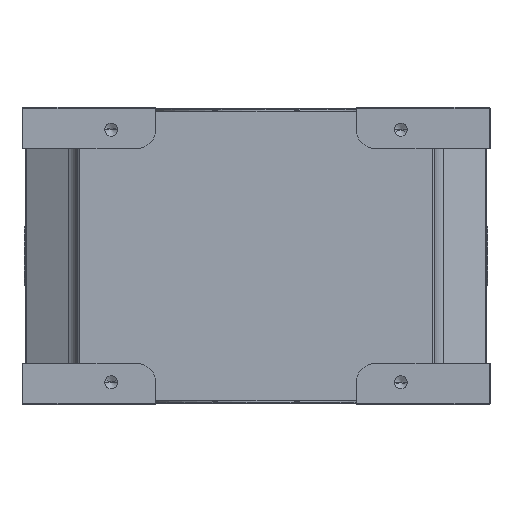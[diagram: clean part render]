
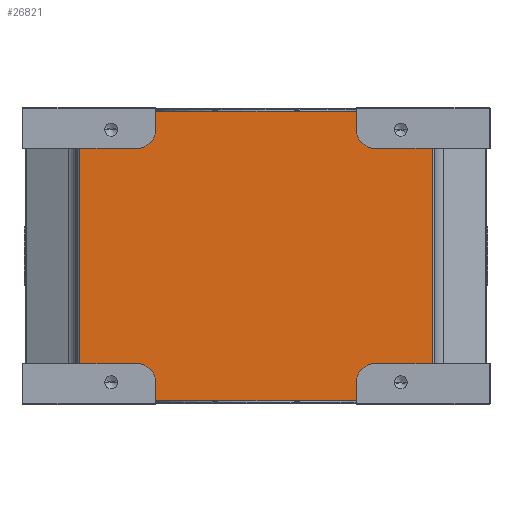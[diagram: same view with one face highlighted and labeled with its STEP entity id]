
A CAD part, left-side view. The second image highlights one B-rep face of the part: STEP entity #26821.
In plain terms, the highlighted planar face has unit normal (-1, 0, 0).
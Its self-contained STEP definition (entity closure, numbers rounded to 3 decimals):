
#3194=DIRECTION('',(0.,-1.,0.));
#3195=VECTOR('',#3194,270.);
#3196=CARTESIAN_POINT('',(-560.,135.,-195.));
#3197=LINE('',#3196,#3195);
#3326=DIRECTION('',(0.,1.,0.));
#3327=VECTOR('',#3326,270.);
#3328=CARTESIAN_POINT('',(-560.,-135.,195.));
#3329=LINE('',#3328,#3327);
#3450=DIRECTION('',(0.,0.,-1.));
#3451=VECTOR('',#3450,25.);
#3452=CARTESIAN_POINT('',(-560.,135.,-170.));
#3453=LINE('',#3452,#3451);
#3454=CARTESIAN_POINT('',(-560.,160.,-170.));
#3455=DIRECTION('',(1.,0.,0.));
#3456=DIRECTION('',(0.,0.,1.));
#3457=AXIS2_PLACEMENT_3D('',#3454,#3455,#3456);
#3459=DIRECTION('',(0.,-1.,0.));
#3460=VECTOR('',#3459,77.);
#3461=CARTESIAN_POINT('',(-560.,237.,-145.));
#3462=LINE('',#3461,#3460);
#3463=DIRECTION('',(0.,0.,-1.));
#3464=VECTOR('',#3463,290.);
#3465=CARTESIAN_POINT('',(-560.,237.,145.));
#3466=LINE('',#3465,#3464);
#3467=DIRECTION('',(0.,1.,0.));
#3468=VECTOR('',#3467,77.);
#3469=CARTESIAN_POINT('',(-560.,160.,145.));
#3470=LINE('',#3469,#3468);
#3471=CARTESIAN_POINT('',(-560.,160.,170.));
#3472=DIRECTION('',(1.,0.,0.));
#3473=DIRECTION('',(0.,-1.,0.));
#3474=AXIS2_PLACEMENT_3D('',#3471,#3472,#3473);
#3476=DIRECTION('',(0.,0.,-1.));
#3477=VECTOR('',#3476,25.);
#3478=CARTESIAN_POINT('',(-560.,135.,195.));
#3479=LINE('',#3478,#3477);
#3480=DIRECTION('',(0.,0.,1.));
#3481=VECTOR('',#3480,25.);
#3482=CARTESIAN_POINT('',(-560.,-135.,170.));
#3483=LINE('',#3482,#3481);
#3484=CARTESIAN_POINT('',(-560.,-160.,170.));
#3485=DIRECTION('',(1.,0.,0.));
#3486=DIRECTION('',(0.,0.,-1.));
#3487=AXIS2_PLACEMENT_3D('',#3484,#3485,#3486);
#3489=DIRECTION('',(0.,1.,0.));
#3490=VECTOR('',#3489,77.);
#3491=CARTESIAN_POINT('',(-560.,-237.,145.));
#3492=LINE('',#3491,#3490);
#3493=DIRECTION('',(0.,0.,1.));
#3494=VECTOR('',#3493,290.);
#3495=CARTESIAN_POINT('',(-560.,-237.,-145.));
#3496=LINE('',#3495,#3494);
#3497=DIRECTION('',(0.,-1.,0.));
#3498=VECTOR('',#3497,77.);
#3499=CARTESIAN_POINT('',(-560.,-160.,-145.));
#3500=LINE('',#3499,#3498);
#3501=CARTESIAN_POINT('',(-560.,-160.,-170.));
#3502=DIRECTION('',(1.,0.,0.));
#3503=DIRECTION('',(0.,1.,0.));
#3504=AXIS2_PLACEMENT_3D('',#3501,#3502,#3503);
#3506=DIRECTION('',(0.,0.,1.));
#3507=VECTOR('',#3506,25.);
#3508=CARTESIAN_POINT('',(-560.,-135.,-195.));
#3509=LINE('',#3508,#3507);
#18766=CARTESIAN_POINT('',(-560.,-237.,-145.));
#18768=VERTEX_POINT('',#18766);
#18769=CARTESIAN_POINT('',(-560.,-237.,145.));
#18771=VERTEX_POINT('',#18769);
#18891=CARTESIAN_POINT('',(-560.,-160.,145.));
#18892=CARTESIAN_POINT('',(-560.,-135.,170.));
#18893=VERTEX_POINT('',#18891);
#18894=VERTEX_POINT('',#18892);
#18895=CARTESIAN_POINT('',(-560.,-135.,-170.));
#18896=CARTESIAN_POINT('',(-560.,-160.,-145.));
#18897=VERTEX_POINT('',#18895);
#18898=VERTEX_POINT('',#18896);
#18971=CARTESIAN_POINT('',(-560.,-135.,195.));
#18972=VERTEX_POINT('',#18971);
#19023=CARTESIAN_POINT('',(-560.,-135.,-195.));
#19024=VERTEX_POINT('',#19023);
#19814=CARTESIAN_POINT('',(-560.,237.,145.));
#19816=VERTEX_POINT('',#19814);
#19817=CARTESIAN_POINT('',(-560.,237.,-145.));
#19819=VERTEX_POINT('',#19817);
#19943=CARTESIAN_POINT('',(-560.,160.,-145.));
#19944=CARTESIAN_POINT('',(-560.,135.,-170.));
#19945=VERTEX_POINT('',#19943);
#19946=VERTEX_POINT('',#19944);
#19947=CARTESIAN_POINT('',(-560.,135.,170.));
#19948=CARTESIAN_POINT('',(-560.,160.,145.));
#19949=VERTEX_POINT('',#19947);
#19950=VERTEX_POINT('',#19948);
#20023=CARTESIAN_POINT('',(-560.,135.,-195.));
#20024=VERTEX_POINT('',#20023);
#20075=CARTESIAN_POINT('',(-560.,135.,195.));
#20076=VERTEX_POINT('',#20075);
#26784=CARTESIAN_POINT('',(-560.,0.,0.));
#26785=DIRECTION('',(-1.,0.,0.));
#26786=DIRECTION('',(0.,0.,1.));
#26787=AXIS2_PLACEMENT_3D('',#26784,#26785,#26786);
#26788=PLANE('',#26787);
#26789=ORIENTED_EDGE('',*,*,#26629,.F.);
#26791=ORIENTED_EDGE('',*,*,#26790,.F.);
#26793=ORIENTED_EDGE('',*,*,#26792,.F.);
#26795=ORIENTED_EDGE('',*,*,#26794,.F.);
#26797=ORIENTED_EDGE('',*,*,#26796,.F.);
#26799=ORIENTED_EDGE('',*,*,#26798,.F.);
#26801=ORIENTED_EDGE('',*,*,#26800,.F.);
#26803=ORIENTED_EDGE('',*,*,#26802,.F.);
#26804=ORIENTED_EDGE('',*,*,#26714,.F.);
#26806=ORIENTED_EDGE('',*,*,#26805,.F.);
#26808=ORIENTED_EDGE('',*,*,#26807,.F.);
#26810=ORIENTED_EDGE('',*,*,#26809,.F.);
#26812=ORIENTED_EDGE('',*,*,#26811,.F.);
#26814=ORIENTED_EDGE('',*,*,#26813,.F.);
#26816=ORIENTED_EDGE('',*,*,#26815,.F.);
#26818=ORIENTED_EDGE('',*,*,#26817,.F.);
#26819=EDGE_LOOP('',(#26789,#26791,#26793,#26795,#26797,#26799,#26801,#26803,
#26804,#26806,#26808,#26810,#26812,#26814,#26816,#26818));
#26820=FACE_OUTER_BOUND('',#26819,.F.);
#26821=ADVANCED_FACE('',(#26820),#26788,.T.);
#3458=CIRCLE('',#3457,25.);
#3475=CIRCLE('',#3474,25.);
#3488=CIRCLE('',#3487,25.);
#3505=CIRCLE('',#3504,25.);
#26629=EDGE_CURVE('',#20024,#19024,#3197,.T.);
#26714=EDGE_CURVE('',#18972,#20076,#3329,.T.);
#26790=EDGE_CURVE('',#19946,#20024,#3453,.T.);
#26792=EDGE_CURVE('',#19945,#19946,#3458,.T.);
#26794=EDGE_CURVE('',#19819,#19945,#3462,.T.);
#26796=EDGE_CURVE('',#19816,#19819,#3466,.T.);
#26798=EDGE_CURVE('',#19950,#19816,#3470,.T.);
#26800=EDGE_CURVE('',#19949,#19950,#3475,.T.);
#26802=EDGE_CURVE('',#20076,#19949,#3479,.T.);
#26805=EDGE_CURVE('',#18894,#18972,#3483,.T.);
#26807=EDGE_CURVE('',#18893,#18894,#3488,.T.);
#26809=EDGE_CURVE('',#18771,#18893,#3492,.T.);
#26811=EDGE_CURVE('',#18768,#18771,#3496,.T.);
#26813=EDGE_CURVE('',#18898,#18768,#3500,.T.);
#26815=EDGE_CURVE('',#18897,#18898,#3505,.T.);
#26817=EDGE_CURVE('',#19024,#18897,#3509,.T.);
